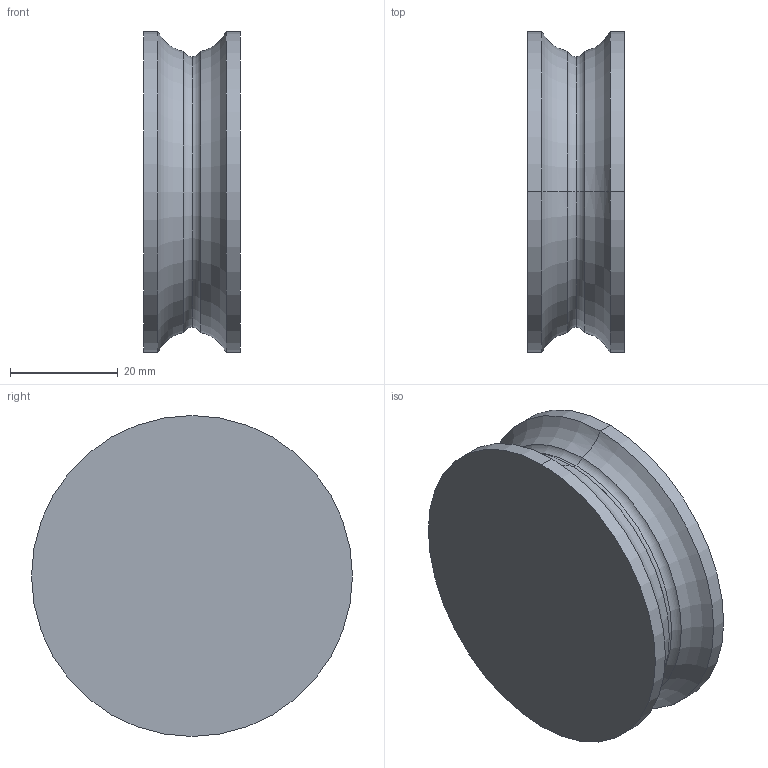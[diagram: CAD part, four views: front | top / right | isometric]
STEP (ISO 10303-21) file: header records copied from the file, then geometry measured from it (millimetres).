
FILE_DESCRIPTION (( 'STEP AP203' ), '1' );
FILE_NAME ('Part1.STEP', '2026-07-02T08:41:32', ( '' ), ( '' ), 'SwSTEP 2.0', 'SolidWorks 2025', '' );
FILE_SCHEMA (( 'CONFIG_CONTROL_DESIGN' ));
Length unit declared in the file: millimetre
Products named in the file (1): Part1
Bounding box: 17.91 x 59.52 x 59.52 mm (x, y, z)
Volume: 43250.9 mm3; surface area: 9330.9 mm2
Topology: 1 solids, 1 shells, 14 faces, 26 edges, 14 vertices
Faces by surface type: torus 8, cylinder 4, plane 2
Entity records: 429 total; most frequent: DIRECTION 78, CARTESIAN_POINT 55, ORIENTED_EDGE 52, AXIS2_PLACEMENT_3D 37, EDGE_CURVE 26, CIRCLE 22, EDGE_LOOP 14, ADVANCED_FACE 14
